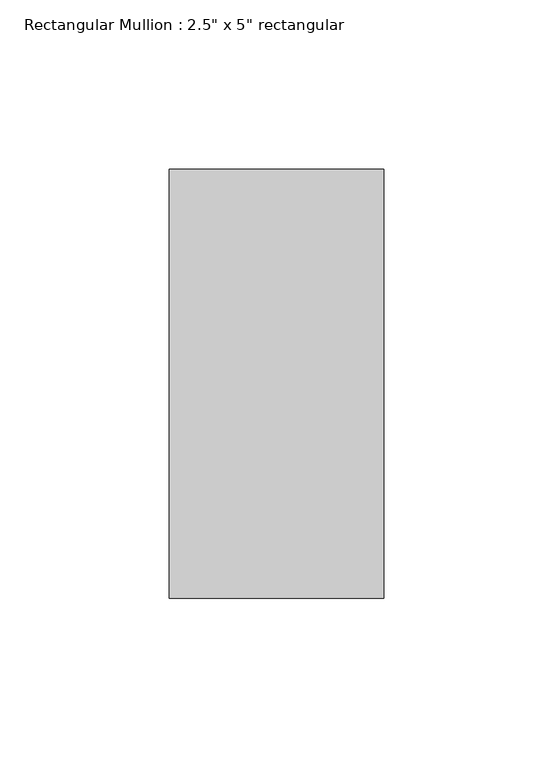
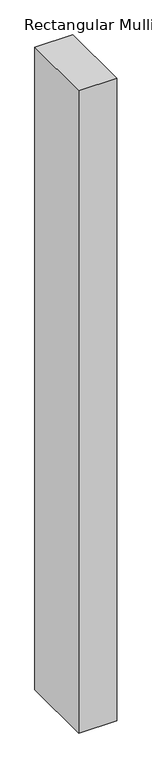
"""IFC4 building model written with IfcOpenShell, lengths in millimetres: member geometry."""

import ifcopenshell
import ifcopenshell.guid

model = None  # the IFC model being written
_history = None  # IfcOwnerHistory: only IFC2X3 demands one
_inside = {}  # id of a spatial element -> (the spatial element, [elements in it])
_under = {}  # id of a project, library or spatial element -> (it, [spatial elements below it])
_declared = {}  # id of a project -> (the project, [libraries it declares])
_typed = {}  # id of a type object -> (the type object, [elements of that type])
_made_of = {}  # id of a material, layer set ... -> (it, [elements and type objects made of it])


def new_model(schema):
    """Start an empty IFC model of exactly this schema.

    Asked for "IFC4X3", IfcOpenShell would pick the latest addendum, in which some entities
    have other attributes; the version numbers below select the first issue.
    IFC2X3 requires an IfcOwnerHistory on every rooted entity: one is made here for all.
    """
    global model, _history
    if schema == "IFC4X3":
        model = ifcopenshell.file(schema_version=(4, 3, 0, 0))
    else:
        model = ifcopenshell.file(schema=schema)
    _inside.clear()
    _under.clear()
    _declared.clear()
    _typed.clear()
    _made_of.clear()
    _history = None
    if model.schema == "IFC2X3":
        org = make("IfcOrganization", Name="unknown")
        user = make(
            "IfcPersonAndOrganization",
            ThePerson=make("IfcPerson", FamilyName="unknown"),
            TheOrganization=org,
        )
        app = make(
            "IfcApplication",
            ApplicationDeveloper=org,
            Version="unknown",
            ApplicationFullName="unknown",
            ApplicationIdentifier="unknown",
        )
        _history = make(
            "IfcOwnerHistory",
            OwningUser=user,
            OwningApplication=app,
            ChangeAction="ADDED",
            CreationDate=0,
        )
    return model


def make(cls, **values):
    """One entity of the class cls with the attributes given. An attribute that is None is left unset."""
    return model.create_entity(
        cls, **{name: value for name, value in values.items() if value is not None}
    )


def rooted(cls, **values):
    """An entity with a GlobalId (a new one), such as an element, a storey or a relation."""
    return make(cls, GlobalId=ifcopenshell.guid.new(), OwnerHistory=_history, **values)


def si_unit(unit_type, name, prefix=None):
    """IfcSIUnit, for example si_unit("LENGTHUNIT", "METRE", prefix="MILLI")."""
    return make("IfcSIUnit", UnitType=unit_type, Prefix=prefix, Name=name)


def assignment(units):
    """IfcUnitAssignment: the units of a project."""
    return None if units is None else make("IfcUnitAssignment", Units=units)


def point(xyz):
    """IfcCartesianPoint."""
    return None if xyz is None else make("IfcCartesianPoint", Coordinates=xyz)


def direction(xyz):
    """IfcDirection."""
    return None if xyz is None else make("IfcDirection", DirectionRatios=xyz)


def frame(location, z_axis=None, x_axis=None):
    """IfcAxis2Placement3D, a coordinate frame: its origin and axes. An axis left out is left unset."""
    return make(
        "IfcAxis2Placement3D",
        Location=point(location),
        Axis=direction(z_axis),
        RefDirection=direction(x_axis),
    )


def origin():
    """The frame at (0, 0, 0) with its axes left unset."""
    return frame((0.0, 0.0, 0.0))


def place(relative_to, where):
    """IfcLocalPlacement: puts the frame where relative to a parent placement (None: the world)."""
    return make(
        "IfcLocalPlacement", PlacementRelTo=relative_to, RelativePlacement=where
    )


def context(
    kind, dimensions, precision=None, world=None, true_north=None, identifier=None
):
    """IfcGeometricRepresentationContext, for example the 3D "Model" context."""
    return make(
        "IfcGeometricRepresentationContext",
        ContextIdentifier=identifier,
        ContextType=kind,
        CoordinateSpaceDimension=dimensions,
        Precision=precision,
        WorldCoordinateSystem=world,
        TrueNorth=true_north,
    )


def project(units=None, contexts=None):
    """IfcProject with its units and contexts."""
    return rooted(
        "IfcProject",
        Name="project",
        RepresentationContexts=contexts,
        UnitsInContext=assignment(units),
    )


def spatial(cls, under=None, at=None, **own):
    """A site, building, storey or space (cls), placed at a placement, below another one or the project."""
    s = rooted(cls, ObjectPlacement=at, **own)
    if under is not None:
        _under.setdefault(under.id(), (under, []))[1].append(s)
    return s


def polyline(points):
    """IfcPolyline through the points."""
    return make("IfcPolyline", Points=[point(p) for p in points])


def outline(outer, holes=None, kind="AREA"):
    """IfcArbitraryClosedProfileDef: a profile drawn as a closed curve; with holes, ...WithVoids."""
    if holes is None:
        return make("IfcArbitraryClosedProfileDef", ProfileType=kind, OuterCurve=outer)
    return make(
        "IfcArbitraryProfileDefWithVoids",
        ProfileType=kind,
        OuterCurve=outer,
        InnerCurves=holes,
    )


def extrude(swept, where, along, depth):
    """IfcExtrudedAreaSolid: the profile swept, set in the frame where, extruded along a direction by depth."""
    return make(
        "IfcExtrudedAreaSolid",
        SweptArea=swept,
        Position=where,
        ExtrudedDirection=direction(along),
        Depth=depth,
    )


def shape(context_of_items, identifier, shape_type, items):
    """IfcShapeRepresentation: the items that make up one representation, for example the "Body"."""
    return make(
        "IfcShapeRepresentation",
        ContextOfItems=context_of_items,
        RepresentationIdentifier=identifier,
        RepresentationType=shape_type,
        Items=items,
    )


def source(mapping_origin, context_of_items, identifier, shape_type, items):
    """IfcRepresentationMap: a shape defined once, which mapped items show again and again."""
    return make(
        "IfcRepresentationMap",
        MappingOrigin=mapping_origin,
        MappedRepresentation=shape(context_of_items, identifier, shape_type, items),
    )


def transform(
    local_origin,
    x_axis=None,
    y_axis=None,
    z_axis=None,
    scale=None,
    scale2=None,
    scale3=None,
    uniform=True,
):
    """IfcCartesianTransformationOperator3D, or its non-uniform kind. x_axis, y_axis, z_axis: its Axis1, 2, 3."""
    if uniform:
        return make(
            "IfcCartesianTransformationOperator3D",
            Axis1=direction(x_axis),
            Axis2=direction(y_axis),
            LocalOrigin=point(local_origin),
            Scale=scale,
            Axis3=direction(z_axis),
        )
    return make(
        "IfcCartesianTransformationOperator3DnonUniform",
        Axis1=direction(x_axis),
        Axis2=direction(y_axis),
        LocalOrigin=point(local_origin),
        Scale=scale,
        Axis3=direction(z_axis),
        Scale2=scale2,
        Scale3=scale3,
    )


def mapped(mapping_source, mapping_target):
    """IfcMappedItem: shows the shape of a source again, moved by a transform."""
    return make(
        "IfcMappedItem", MappingSource=mapping_source, MappingTarget=mapping_target
    )


def made_of(thing, what):
    """Note that an element or type object is made of a material, layer set ...; save() writes the relation."""
    if what is not None:
        _made_of.setdefault(what.id(), (what, []))[1].append(thing)
    return thing


def element(
    cls,
    number,
    at=None,
    inside=None,
    cuts=None,
    type_object=None,
    material=None,
    context=None,
    identifier="Body",
    shape_type=None,
    held_by="IfcProductDefinitionShape",
    body=None,
    shapes=None,
    **own,
):
    """One element of the class cls, such as IfcWall. Its Tag is "e" and its number.

    at: its placement. inside: the storey or other place that contains it. cuts: it is an
    opening in that element (IfcRelVoidsElement). A single representation is given by context,
    identifier, shape_type and body (its items); several are given by shapes. held_by: the class
    of the entity that holds the representations. save() writes the other relations.
    """
    e = rooted(cls, Tag="e%d" % number, ObjectPlacement=at, **own)
    if body is not None:
        shapes = [shape(context, identifier, shape_type, body)]
    if shapes is not None:
        e.Representation = make(held_by, Representations=shapes)
    if inside is not None:
        _inside.setdefault(inside.id(), (inside, []))[1].append(e)
    if cuts is not None:
        rooted(
            "IfcRelVoidsElement", RelatingBuildingElement=cuts, RelatedOpeningElement=e
        )
    if type_object is not None:
        _typed.setdefault(type_object.id(), (type_object, []))[1].append(e)
    return made_of(e, material)


def aggregate(whole, parts):
    """IfcRelAggregates: a whole, such as a stair, and the parts it consists of."""
    return rooted("IfcRelAggregates", RelatingObject=whole, RelatedObjects=parts)


def save(model, path):
    """Write the relations noted so far, then the file.

    IfcRelAggregates (storeys below a building ...), IfcRelContainedInSpatialStructure (elements
    in a storey), IfcRelDefinesByType, IfcRelAssociatesMaterial and IfcRelDeclares: one each for
    every whole, place, type object, material and project.
    """
    for whole, parts in _under.values():
        aggregate(whole, parts)
    for where, things in _inside.values():
        rooted(
            "IfcRelContainedInSpatialStructure",
            RelatedElements=things,
            RelatingStructure=where,
        )
    for kind, things in _typed.values():
        rooted("IfcRelDefinesByType", RelatedObjects=things, RelatingType=kind)
    for what, things in _made_of.values():
        rooted("IfcRelAssociatesMaterial", RelatedObjects=things, RelatingMaterial=what)
    for by, libraries in _declared.values():
        rooted("IfcRelDeclares", RelatingContext=by, RelatedDefinitions=libraries)
    model.write(path)


def member_76096061(model_context):
    return source(origin(), model_context, "Body", "SweptSolid", [
        extrude(outline(polyline([(0.0, 76.2), (0.0, -50.8), (-63.5, -50.8), (-63.5, 76.2), (0.0, 76.2)])), frame((0.0, 0.0, -1136.65), z_axis=(0.0, 0.0, 1.0), x_axis=(1.0, 0.0, 0.0)), (0.0, 0.0, 1.0), 1136.65),
    ])


if __name__ == "__main__":
    model = new_model("IFC4")
    model_context = context("Model", 3, world=origin())
    ifc_project = project(units=[si_unit("LENGTHUNIT", "METRE", prefix="MILLI")], contexts=[model_context])
    site = spatial("IfcSite", under=ifc_project)
    building = spatial("IfcBuilding", under=site)
    placement = place(None, origin())
    member_shape = member_76096061(model_context)
    element("IfcMember", 1, ObjectType="Rectangular Mullion : 2.5\" x 5\" rectangular", at=placement, inside=building, context=model_context, shape_type="MappedRepresentation", body=[
        mapped(member_shape, transform((0.0, 0.0, 0.0), x_axis=(1.0, 0.0, 0.0), y_axis=(0.0, 1.0, 0.0), z_axis=(0.0, 0.0, 1.0))),
    ])
    save(model, "model.ifc")
